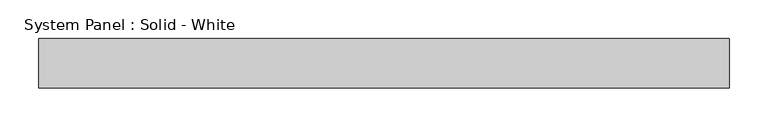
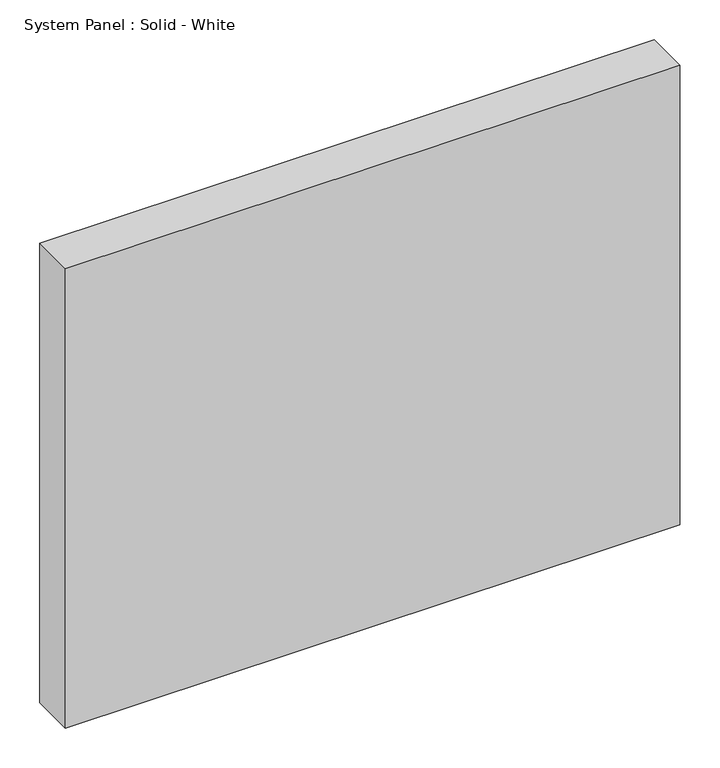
"""IFC4 building model written with IfcOpenShell, lengths in millimetres: plate geometry, System Panel : Solid - White."""

from ifc_helpers import new_model, si_unit, origin, origin_with_axes, place, context, project, spatial, polyline, outline, extrude, source, transform, mapped, element, save


def system_panel_solid_white_56e32685(model_context):
    return source(origin(), model_context, "Body", "SweptSolid", [
        extrude(outline(polyline([(443.9708333, -19.05), (-443.9708333, -19.05), (-443.9708333, 44.45), (443.9708333, 44.45), (443.9708333, -19.05)])), origin_with_axes(), (0.0, 0.0, 1.0), 702.2026365),
    ])


if __name__ == "__main__":
    model = new_model("IFC4")
    model_context = context("Model", 3, world=origin())
    ifc_project = project(units=[si_unit("LENGTHUNIT", "METRE", prefix="MILLI")], contexts=[model_context])
    site = spatial("IfcSite", under=ifc_project)
    building = spatial("IfcBuilding", under=site)
    placement = place(None, origin())
    system_panel_solid_white_shape = system_panel_solid_white_56e32685(model_context)
    element("IfcPlate", 1, ObjectType="System Panel : Solid - White", at=placement, inside=building, context=model_context, shape_type="MappedRepresentation", body=[
        mapped(system_panel_solid_white_shape, transform((0.0, 0.0, 0.0), x_axis=(1.0, 0.0, 0.0), y_axis=(0.0, 1.0, 0.0), z_axis=(0.0, 0.0, 1.0))),
    ])
    save(model, "model.ifc")
